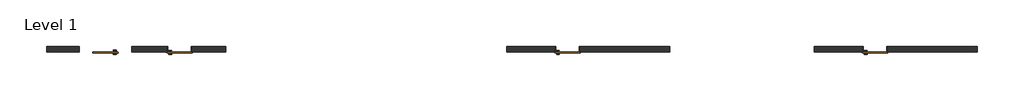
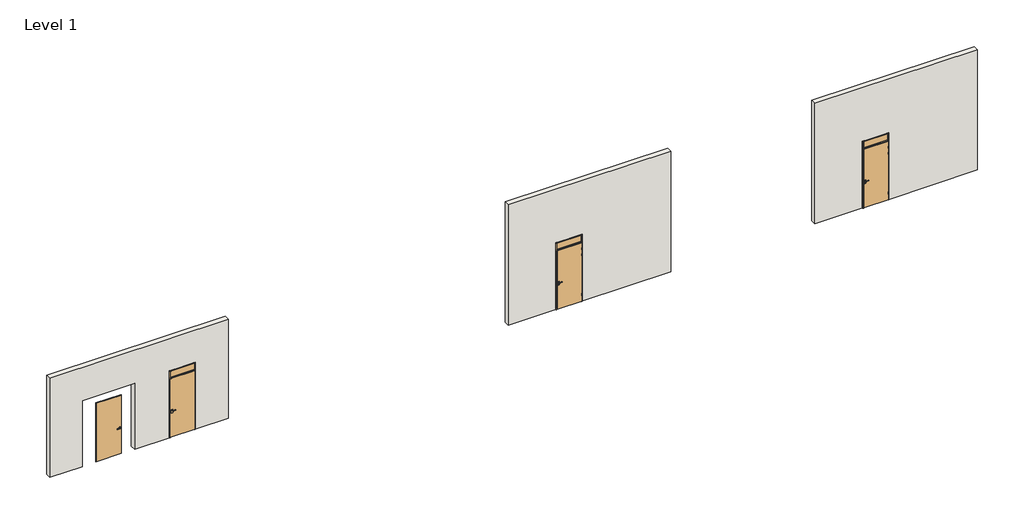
# One storey, incomplete: 4 doors, 3 walls.
"""IFC4 building model written with IfcOpenShell, lengths in millimetres."""

from ifc_helpers import new_model, si_unit, origin, place, context, project, spatial, faceted_brep, transform, mapped, element, save
from components import door_bdfb3649, test_02_930x2315_95cc4177

model = new_model("IFC4")

# Units and contexts
model_context = context("Model", 3, world=origin())
ifc_project = project(units=[si_unit("LENGTHUNIT", "METRE", prefix="MILLI")], contexts=[model_context])

# Site, building, storey
site = spatial("IfcSite", under=ifc_project)
building = spatial("IfcBuilding", under=site)
storey = spatial("IfcBuildingStorey", under=building, Name="Level 1", Elevation=0.0)

# Doors
placement = place(None, origin())
door_shape = door_bdfb3649(model_context)
element("IfcDoor", 1, ObjectType="test_01_deurpaneel : opdek", at=placement, inside=storey, context=model_context, shape_type="MappedRepresentation", body=[
    mapped(door_shape, transform((-7635.1401383, -4230.7061396, 28.0), x_axis=(1.0, 0.0, 0.0), y_axis=(0.0, 1.0, 0.0), z_axis=(0.0, 0.0, 1.0))),
])
test_02_930x2315_shape = test_02_930x2315_95cc4177(model_context)
element("IfcDoor", 2, ObjectType="test_02 : 930X2315", at=placement, inside=storey, context=model_context, shape_type="MappedRepresentation", body=[
    mapped(test_02_930x2315_shape, transform((-4862.6401383, -4140.2061396, 0.0), x_axis=(1.0, 0.0, 0.0), y_axis=(0.0, 1.0, 0.0), z_axis=(0.0, 0.0, 1.0))),
])
element("IfcDoor", 3, ObjectType="test_02 : 930X2315", at=placement, inside=storey, context=model_context, shape_type="MappedRepresentation", body=[
    mapped(test_02_930x2315_shape, transform((9637.3598617, -4140.2061396, 0.0), x_axis=(1.0, 0.0, 0.0), y_axis=(0.0, 1.0, 0.0), z_axis=(0.0, 0.0, 1.0))),
])
element("IfcDoor", 4, ObjectType="test_02 : 930X2315", at=placement, inside=storey, context=model_context, shape_type="MappedRepresentation", body=[
    mapped(test_02_930x2315_shape, transform((21137.3598617, -4140.2061396, 0.0), x_axis=(1.0, 0.0, 0.0), y_axis=(0.0, 1.0, 0.0), z_axis=(0.0, 0.0, 1.0))),
])

# Walls
element("IfcWall", 5, ObjectType="Generic - 200mm", at=placement, inside=storey, context=model_context, shape_type="Brep", body=[
    faceted_brep([(-3135.1401383, -4240.2061396, 0.0), (-3135.1401383, -4240.2061396, 3921.1982455), (-9835.1401383, -4240.2061396, 3921.1982455), (-9835.1401383, -4240.2061396, 0.0), (-8620.1401383, -4240.2061396, 0.0), (-8620.1401383, -4240.2061396, 2615.0), (-6650.1401383, -4240.2061396, 2615.0), (-6650.1401383, -4240.2061396, 0.0), (-5335.1401383, -4240.2061396, 0.0), (-5335.1401383, -4240.2061396, 10.0), (-5335.1401383, -4240.2061396, 2650.0), (-4390.1401383, -4240.2061396, 2650.0), (-4390.1401383, -4240.2061396, 10.0), (-4390.1401383, -4240.2061396, 0.0), (-3135.1401383, -4040.2061396, 3921.1982455), (-3135.1401383, -4040.2061396, 0.0), (-4390.1401383, -4040.2061396, 0.0), (-4390.1401383, -4040.2061396, 10.0), (-4390.1401383, -4040.2061396, 2650.0), (-5335.1401383, -4040.2061396, 2650.0), (-5335.1401383, -4040.2061396, 10.0), (-5335.1401383, -4040.2061396, 0.0), (-6650.1401383, -4040.2061396, 0.0), (-6650.1401383, -4040.2061396, 2615.0), (-8620.1401383, -4040.2061396, 2615.0), (-8620.1401383, -4040.2061396, 0.0), (-9835.1401383, -4040.2061396, 0.0), (-9835.1401383, -4040.2061396, 3921.1982455)], [[[0, 1, 2, 3, 4, 5, 6, 7, 8, 9, 10, 11, 12, 13]], [[14, 15, 16, 17, 18, 19, 20, 21, 22, 23, 24, 25, 26, 27]], [[15, 0, 13, 16]], [[3, 26, 25, 4]], [[7, 22, 21, 8]], [[1, 0, 15, 14]], [[2, 1, 14, 27]], [[3, 2, 27, 26]], [[6, 23, 22, 7]], [[24, 5, 4, 25]], [[23, 6, 5, 24]], [[19, 10, 9, 8, 21, 20]], [[11, 18, 17, 16, 13, 12]], [[10, 19, 18, 11]]]),
])
element("IfcWall", 6, ObjectType="Generic - 200mm", at=placement, inside=storey, context=model_context, shape_type="Brep", body=[
    faceted_brep([(13464.8598617, -4240.2061396, 0.0), (13464.8598617, -4240.2061396, 4773.498033), (7364.8598617, -4240.2061396, 4773.498033), (7364.8598617, -4240.2061396, 0.0), (9164.8598617, -4240.2061396, 0.0), (9164.8598617, -4240.2061396, 10.0), (9164.8598617, -4240.2061396, 2650.0), (10109.8598617, -4240.2061396, 2650.0), (10109.8598617, -4240.2061396, 10.0), (10109.8598617, -4240.2061396, 0.0), (13464.8598617, -4040.2061396, 4773.498033), (13464.8598617, -4040.2061396, 0.0), (10109.8598617, -4040.2061396, 0.0), (10109.8598617, -4040.2061396, 10.0), (10109.8598617, -4040.2061396, 2650.0), (9164.8598617, -4040.2061396, 2650.0), (9164.8598617, -4040.2061396, 10.0), (9164.8598617, -4040.2061396, 0.0), (7364.8598617, -4040.2061396, 0.0), (7364.8598617, -4040.2061396, 4773.498033)], [[[0, 1, 2, 3, 4, 5, 6, 7, 8, 9]], [[10, 11, 12, 13, 14, 15, 16, 17, 18, 19]], [[11, 0, 9, 12]], [[3, 18, 17, 4]], [[1, 0, 11, 10]], [[2, 1, 10, 19]], [[3, 2, 19, 18]], [[15, 6, 5, 4, 17, 16]], [[7, 14, 13, 12, 9, 8]], [[6, 15, 14, 7]]]),
])
element("IfcWall", 7, ObjectType="Generic - 200mm", at=placement, inside=storey, context=model_context, shape_type="Brep", body=[
    faceted_brep([(24964.8598617, -4240.2061396, 0.0), (24964.8598617, -4240.2061396, 4773.498033), (18864.8598617, -4240.2061396, 4773.498033), (18864.8598617, -4240.2061396, 0.0), (20664.8598617, -4240.2061396, 0.0), (20664.8598617, -4240.2061396, 10.0), (20664.8598617, -4240.2061396, 2650.0), (21609.8598617, -4240.2061396, 2650.0), (21609.8598617, -4240.2061396, 10.0), (21609.8598617, -4240.2061396, 0.0), (24964.8598617, -4040.2061396, 4773.498033), (24964.8598617, -4040.2061396, 0.0), (21609.8598617, -4040.2061396, 0.0), (21609.8598617, -4040.2061396, 10.0), (21609.8598617, -4040.2061396, 2650.0), (20664.8598617, -4040.2061396, 2650.0), (20664.8598617, -4040.2061396, 10.0), (20664.8598617, -4040.2061396, 0.0), (18864.8598617, -4040.2061396, 0.0), (18864.8598617, -4040.2061396, 4773.498033)], [[[0, 1, 2, 3, 4, 5, 6, 7, 8, 9]], [[10, 11, 12, 13, 14, 15, 16, 17, 18, 19]], [[11, 0, 9, 12]], [[3, 18, 17, 4]], [[1, 0, 11, 10]], [[2, 1, 10, 19]], [[3, 2, 19, 18]], [[15, 6, 5, 4, 17, 16]], [[7, 14, 13, 12, 9, 8]], [[6, 15, 14, 7]]]),
])

save(model, "model.ifc")
